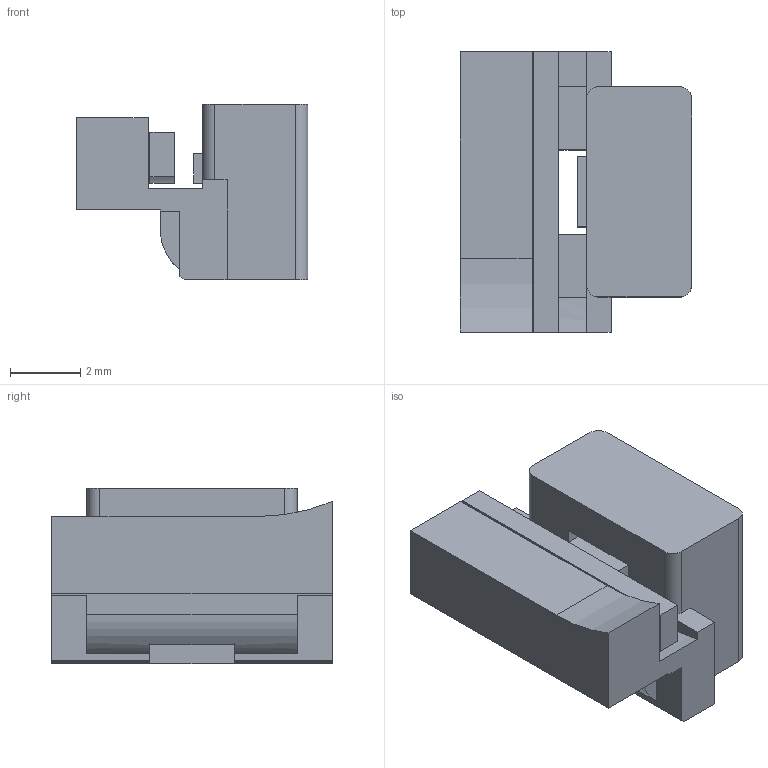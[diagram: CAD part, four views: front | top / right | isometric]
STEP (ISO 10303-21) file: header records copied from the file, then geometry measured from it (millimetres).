
FILE_DESCRIPTION(('Open CASCADE Model'),'2;1');
FILE_NAME('Open CASCADE Shape Model','2026-09-09T11:51:02',('Author'),( 'Open CASCADE'),'Open CASCADE STEP processor 7.7','Open CASCADE 7.7' ,'Unknown');
FILE_SCHEMA(('AUTOMOTIVE_DESIGN { 1 0 10303 214 1 1 1 1 }'));
Length unit declared in the file: millimetre
Products named in the file (8): R8_PTT_END_STOP_COUPON_INSTALLED; host; host_part; key_flange_at_rest; key_flange_at_rest_part; stop_shoe_0p55; stop_shoe_0p55_part
Assembly tree (7 placements, depth 4):
  R8_PTT_END_STOP_COUPON_INSTALLED
    R8_PTT_END_STOP_COUPON_INSTALLED
      host
        host_part
      key_flange_at_rest
        key_flange_at_rest_part
      stop_shoe_0p55
        stop_shoe_0p55_part
Bounding box: 6.6 x 8 x 5 mm (x, y, z)
Volume: 146.5 mm3; surface area: 352.2 mm2
Topology: 3 solids, 3 shells, 63 faces, 177 edges, 118 vertices
Faces by surface type: plane 53, cylinder 10
Entity records: 4391 total; most frequent: CARTESIAN_POINT 816, DIRECTION 620, LINE 413, VECTOR 413, ORIENTED_EDGE 354, PCURVE 354, DEFINITIONAL_REPRESENTATION 354, EDGE_CURVE 177
